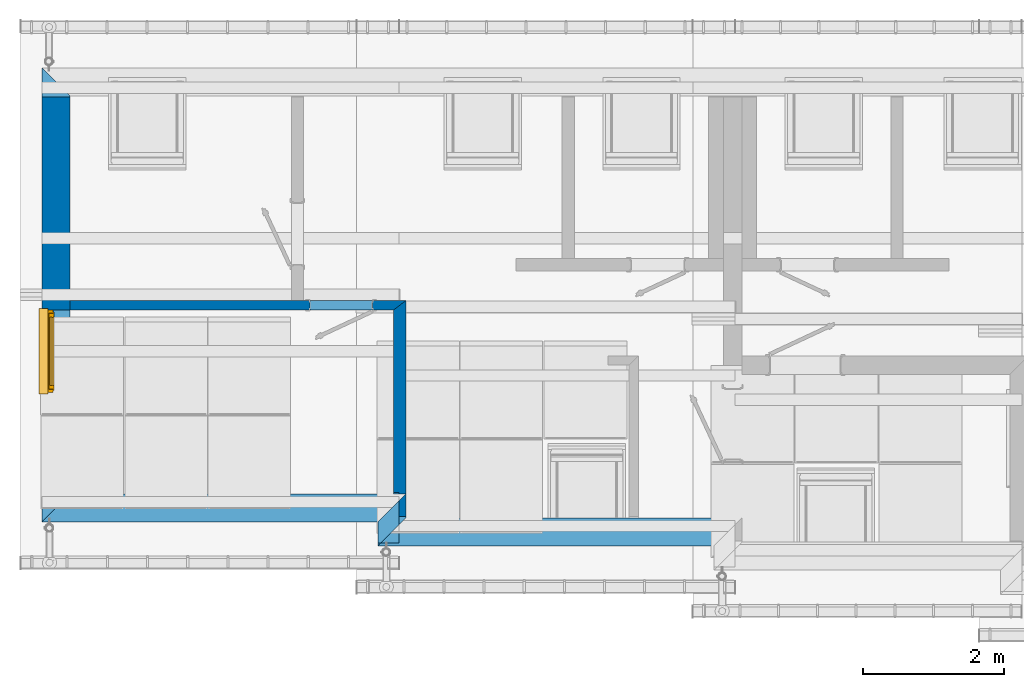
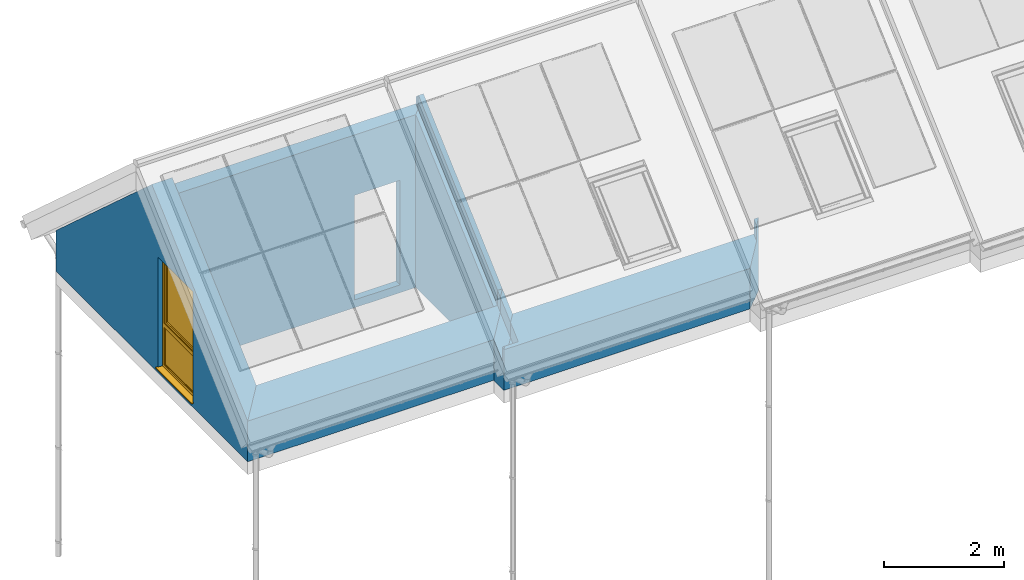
# One storey, part 6 of 43: 6 walls, 1 window, 2 openings.
"""IFC2X3 building model written with IfcOpenShell, lengths in millimetres."""

from ifc_helpers import new_model, si_unit, frame, origin_with_axes, place, context, project, spatial, faceted_brep, material, layer, layer_set, layer_usage, type_object, element, fill, save


model = new_model("IFC2X3")

# Units and contexts
model_context = context("Model", 3, world=origin_with_axes())
ifc_project = project(units=[si_unit("LENGTHUNIT", "METRE", prefix="MILLI")], contexts=[model_context])

# Site, building, storey
site_placement = place(None, origin_with_axes())
site = spatial("IfcSite", under=ifc_project, at=site_placement, Name="Site", CompositionType="ELEMENT")
building_placement = place(site_placement, origin_with_axes())
building = spatial("IfcBuilding", under=site, at=building_placement, Name="?", CompositionType="ELEMENT")
storey_placement = place(building_placement, frame((0.0, 0.0, 5938.0), z_axis=(0.0, 0.0, 1.0), x_axis=(1.0, 0.0, 0.0)))
storey = spatial("IfcBuildingStorey", under=building, at=storey_placement, Name="Dachgeschoß", CompositionType="ELEMENT", Elevation=5938.0)

# Walls
ifc_material_1 = material(Name="Material_AW")
ifc_layer_1 = layer(ifc_material_1, 395.0, ventilated=False)
ifc_layer_set_1 = layer_set([ifc_layer_1], Name="MaterialLayerSet_AW")
ifc_layer_usage_1 = layer_usage(ifc_layer_set_1, "AXIS2", "NEGATIVE", 197.5)
wall_1_placement = place(storey_placement, frame((9697.5, -6558.5, 0.0), z_axis=(0.0, 0.0, 1.0), x_axis=(-1.0, 0.0, 0.0)))
element("IfcWall", 1, at=wall_1_placement, inside=storey, material=ifc_layer_usage_1, Name="AW-27", context=model_context, shape_type="Brep", body=[
    faceted_brep([(4552.50024192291, -197.5, 0.0), (4552.50024192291, -197.5, 1185.2093980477), (-102.5, -197.5, 1185.20941535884), (-102.5, -197.5, 1493.14796522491), (-197.499999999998, -197.5, 1493.14796522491), (-197.5, -197.5, 0.0), (4947.50024192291, 197.5, 2.01948391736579e-28), (4947.50024192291, 197.5, 829.549722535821), (4906.50024192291, 156.5, 866.466296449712), (4906.50024192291, 156.5, 559.428262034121), (4647.5, -102.500241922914, 792.633059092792), (4647.5, -102.500241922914, 1099.67121290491), (4552.50024192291, -197.5, 1185.2093980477), (4552.50024192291, -197.5, 2.01948391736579e-28), (197.5, 197.5, 0.0), (197.500000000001, 197.5, 829.549740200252), (4947.50024192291, 197.5, 829.549722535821), (4947.50024192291, 197.5, 0.0), (-197.5, -197.5, 1.26217744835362e-29), (-197.499999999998, -197.5, 1493.14796522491), (-102.5, -102.500000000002, 1407.60939570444), (-102.5, -102.500000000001, 1099.67101274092), (197.500000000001, 197.5, 829.549740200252), (197.5, 197.5, -2.52435489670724e-29), (-197.5, -197.5, 0.0), (197.5, 197.5, 0.0), (4947.50024192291, 197.5, 0.0), (4552.50024192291, -197.5, 0.0), (-102.5, -102.500000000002, 1407.60939570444), (-197.499999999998, -197.5, 1493.14796522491), (-102.5, -197.5, 1493.14796522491), (4906.50024192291, 156.5, 866.466296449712), (4947.50024192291, 197.5, 829.549722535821), (197.5, 197.5, 829.549740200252), (-102.500000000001, -102.500000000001, 1099.67101274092), (-102.500000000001, -197.5, 1185.20941535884), (4552.50024192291, -197.5, 1185.2093980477), (4647.5, -102.500241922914, 1099.67121290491), (4647.5, 156.5, 866.466297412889), (4647.5, -102.500241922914, 792.633059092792), (4906.50024192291, 156.5, 559.428262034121), (4647.5, 156.5, 559.428262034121), (-102.5, -102.500000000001, 1099.67101274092), (-102.5, -102.500000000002, 1407.60939570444), (-102.5, -197.5, 1493.14796522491), (-102.5, -197.5, 1185.20941535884), (4647.5, 156.5, 559.428262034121), (4647.5, 156.5, 866.466297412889), (4647.5, -102.500241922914, 1099.67121290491), (4647.5, -102.500241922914, 792.633059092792), (4906.50024192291, 156.5, 559.428262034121), (4906.50024192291, 156.5, 866.466296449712), (4647.5, 156.5, 866.466297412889), (4647.5, 156.5, 559.428262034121)], [[[0, 1, 2, 3, 4, 5]], [[6, 7, 8, 9, 10, 11, 12, 13]], [[14, 15, 16, 17]], [[18, 19, 20, 21, 22, 23]], [[24, 25, 26, 27]], [[28, 29, 30]], [[31, 32, 33, 34, 35, 36, 37, 38]], [[39, 40, 41]], [[42, 43, 44, 45]], [[46, 47, 48, 49]], [[50, 51, 52, 53]]]),
])
wall_2_placement = place(storey_placement, frame((4947.5, -6558.5, 0.0), z_axis=(0.0, 0.0, 1.0), x_axis=(0.0, 1.0, 0.0)))
element("IfcWall", 2, at=wall_2_placement, inside=storey, material=ifc_layer_usage_1, Name="AW-28", context=model_context, shape_type="Brep", body=[
    faceted_brep([(538.50000682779, -197.5, 0.0), (538.50000682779, -197.5, 1492.24711746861), (197.5, -197.5, 1185.2092661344), (197.5, -197.5, 0.0), (143.50000682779, 197.5, 0.0), (143.50000682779, 197.5, 829.549519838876), (443.50000682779, -102.5, 1099.67088534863), (443.50000682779, -102.5, 1406.70878644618), (538.50000682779, -197.5, 1492.24711746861), (538.50000682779, -197.5, 0.0), (-197.5, 197.5, 0.0), (-197.5, 197.5, 829.549774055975), (-156.5, 197.5, 866.466275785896), (-156.5, 197.5, 559.428218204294), (143.50000682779, 197.5, 829.549519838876), (143.50000682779, 197.5, 0.0), (197.5, -197.5, 0.0), (197.5, -197.5, 1185.2092661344), (102.5, -102.5, 1099.67093511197), (102.5, -102.5, 792.63300666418), (-156.5, 156.5, 559.428227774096), (-156.5, 156.5, 866.466275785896), (-197.5, 197.5, 829.549774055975), (-197.5, 197.5, 0.0), (197.5, -197.5, 0.0), (-197.5, 197.5, 0.0), (143.50000682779, 197.5, 0.0), (538.50000682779, -197.5, 0.0), (-156.5, 197.5, 866.466275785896), (-197.5, 197.5, 829.549774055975), (-156.5, 156.5, 866.466275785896), (102.5, -102.5, 1099.67093511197), (197.5, -197.5, 1185.2092661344), (538.50000682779, -197.5, 1492.24711746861), (443.50000682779, -102.5, 1406.70878644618), (443.50000682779, -102.5, 1099.67088534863), (143.500006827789, 197.5, 829.549519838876), (-156.5, 197.5, 559.428218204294), (-156.5, 156.5, 559.428227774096), (102.5, -102.5, 792.63300666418), (102.5, -102.5, 792.63300666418), (102.5, -102.5, 1099.67093511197), (443.50000682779, -102.5, 1406.70878644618), (443.50000682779, -102.5, 1099.67088534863), (-156.5, 197.5, 559.428218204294), (-156.5, 197.5, 866.466275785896), (-156.5, 156.5, 866.466275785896), (-156.5, 156.5, 559.428227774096)], [[[0, 1, 2, 3]], [[4, 5, 6, 7, 8, 9]], [[10, 11, 12, 13, 14, 15]], [[16, 17, 18, 19, 20, 21, 22, 23]], [[24, 25, 26, 27]], [[28, 29, 30]], [[31, 32, 33, 34]], [[35, 36, 37, 38, 39]], [[40, 41, 42, 43]], [[44, 45, 46, 47]]]),
])
wall_3_placement = place(storey_placement, frame((4947.5, -6217.5, 0.0), z_axis=(0.0, 0.0, 1.0), x_axis=(-1.0, 0.0, 0.0)))
element("IfcWall", 3, at=wall_3_placement, inside=storey, material=ifc_layer_usage_1, Name="AW-29", context=model_context, shape_type="Brep", body=[
    faceted_brep([(4552.50024192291, -197.5, 0.0), (4552.50024192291, -197.5, 1185.20885290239), (-102.5, -197.5, 1185.20900773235), (-102.5, -197.5, 1492.24703898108), (-197.5, -197.5, 1492.24703898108), (-197.5, -197.5, 0.0), (4947.50024192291, 197.5, 0.0), (4947.50024192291, 197.5, 829.549165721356), (4552.50024192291, -197.5, 1185.20885290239), (4552.50024192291, -197.5, 0.0), (197.5, 197.5, 0.0), (197.5, 197.5, 829.549323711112), (4947.50024192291, 197.5, 829.549165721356), (4947.50024192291, 197.5, 0.0), (-197.5, -197.5, 0.0), (-197.5, -197.5, 1492.24703898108), (-102.5, -102.5, 1406.70895568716), (-102.5, -102.5, 1099.67060511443), (197.5, 197.5, 829.549323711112), (197.5, 197.5, 0.0), (-197.5, -197.5, 0.0), (197.5, 197.5, 0.0), (4947.50024192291, 197.5, 0.0), (4552.50024192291, -197.5, 0.0), (-102.5, -102.5, 1406.70895568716), (-197.5, -197.5, 1492.24703898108), (-102.5, -197.5, 1492.24703898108), (-102.5, -197.5, 1185.20900773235), (4552.50024192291, -197.5, 1185.20885290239), (4947.50024192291, 197.5, 829.549165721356), (197.5, 197.5, 829.549323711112), (-102.5, -102.5, 1099.67060511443), (-102.5, -102.5, 1099.67060511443), (-102.5, -102.5, 1406.70895568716), (-102.5, -197.5, 1492.24703898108), (-102.5, -197.5, 1185.20900773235)], [[[0, 1, 2, 3, 4, 5]], [[6, 7, 8, 9]], [[10, 11, 12, 13]], [[14, 15, 16, 17, 18, 19]], [[20, 21, 22, 23]], [[24, 25, 26]], [[27, 28, 29, 30, 31]], [[32, 33, 34, 35]]]),
])

# Wall, opening, window
wall_4_placement = place(storey_placement, frame((197.5, -6217.5, 0.0), z_axis=(0.0, 0.0, 1.0), x_axis=(0.0, 1.0, 0.0)))
wall_4 = element("IfcWall", 4, at=wall_4_placement, inside=storey, material=ifc_layer_usage_1, Name="AW-30", context=model_context, shape_type="Brep", body=[
    faceted_brep([(5822.50010878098, -197.5, 0.0), (5822.50010878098, -197.5, 1185.209782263), (3010.00062033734, -197.5, 3717.59624126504), (197.5, -197.5, 1185.20876310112), (197.5, -197.5, 0.0), (6217.49987570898, 197.5, 2.01948391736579e-28), (6217.49987570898, 197.5, 829.550307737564), (5822.50010878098, -197.5, 1185.209782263), (5822.50010878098, -197.499999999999, 2.01948391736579e-28), (-197.5, 197.5, 0.0), (-197.5, 197.5, 829.54907871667), (3010.00062033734, 197.5, 3717.59623092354), (6217.49987570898, 197.5, 829.550307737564), (6217.49987570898, 197.5, 0.0), (197.5, -197.5, 0.0), (197.5, -197.5, 1185.20876310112), (-197.5, 197.5, 829.54907871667), (-197.5, 197.5, 0.0), (197.5, -197.5, 0.0), (-197.5, 197.5, 0.0), (6217.49987570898, 197.5, 0.0), (5822.50010878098, -197.5, 0.0), (3010.00062033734, 197.5, 3717.59623092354), (-197.5, 197.5, 829.54907871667), (197.5, -197.5, 1185.20876310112), (3010.00062033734, -197.5, 3717.59624126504), (3010.00062033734, -197.5, 3717.59624126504), (5822.50010878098, -197.5, 1185.209782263), (6217.49987570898, 197.5, 829.550307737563), (3010.00062033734, 197.5, 3717.59623092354)], [[[0, 1, 2, 3, 4]], [[5, 6, 7, 8]], [[9, 10, 11, 12, 13]], [[14, 15, 16, 17]], [[18, 19, 20, 21]], [[22, 23, 24, 25]], [[26, 27, 28, 29]]]),
])
opening_1_placement = place(wall_4_placement, frame((1627.5, 0.0, 116.0), z_axis=(0.0, 0.0, 1.0), x_axis=(1.0, 0.0, 0.0)))
opening_1 = element("IfcOpeningElement", 5, at=opening_1_placement, cuts=wall_4, Name="AW-30|FE21", context=model_context, shape_type="Brep", body=[
    faceted_brep([(0.0, 207.5, 0.0), (0.0, 207.5, 2244.0), (1170.0, 207.5, 2244.0), (1170.0, 207.5, 0.0), (0.0, -207.5, 0.0), (0.0, -207.5, 2244.0), (0.0, 207.5, 2244.0), (0.0, 207.5, 0.0), (1170.0, -207.5, 0.0), (0.0, -207.5, 0.0), (0.0, 207.5, 0.0), (1170.0, 207.5, 0.0), (1170.0, -207.5, 2244.0), (1170.0, -207.5, 0.0), (1170.0, 207.5, 0.0), (1170.0, 207.5, 2244.0), (0.0, -207.5, 2244.0), (1170.0, -207.5, 2244.0), (1170.0, 207.5, 2244.0), (0.0, 207.5, 2244.0), (0.0, -207.5, 0.0), (1170.0, -207.5, 0.0), (1170.0, -207.5, 2244.0), (0.0, -207.5, 2244.0)], [[[0, 1, 2, 3]], [[4, 5, 6, 7]], [[8, 9, 10, 11]], [[12, 13, 14, 15]], [[16, 17, 18, 19]], [[20, 21, 22, 23]]]),
])
window_style = type_object("IfcWindowStyle", Name="FE21", ConstructionType="NOTDEFINED", OperationType="DOUBLE_PANEL_HORIZONTAL", ParameterTakesPrecedence=True, Sizeable=False)
window_placement = place(opening_1_placement, frame((1170.0, 77.5, 0.0), z_axis=(0.0, 0.0, 1.0), x_axis=(-1.0, 0.0, 0.0)))
window = element("IfcWindow", 6, at=window_placement, inside=storey, type_object=window_style, Name="FE21", OverallHeight=2244.0, OverallWidth=1170.0, context=model_context, shape_type="Brep", body=[
    faceted_brep([(0.0, -36.0, 0.0), (1170.0, -36.0, 0.0), (1155.0, -36.0, 15.0), (15.0, -36.0, 15.0), (15.0, 36.0, 15.0), (1155.0, 36.0, 15.0), (1170.0, 36.0, 0.0), (0.0, 36.0, 0.0), (0.0, 36.0, 0.0), (1170.0, 36.0, 0.0), (1170.0, -36.0, 0.0), (0.0, -36.0, 0.0), (1170.0, -36.0, 0.0), (1170.0, -36.0, 2244.0), (1155.0, -36.0, 2229.0), (1155.0, -36.0, 15.0), (1155.0, 36.0, 15.0), (1155.0, 36.0, 2229.0), (1170.0, 36.0, 2244.0), (1170.0, 36.0, 0.0), (1170.0, 36.0, 0.0), (1170.0, 36.0, 2244.0), (1170.0, -36.0, 2244.0), (1170.0, -36.0, 0.0), (1170.0, -36.0, 2244.0), (0.0, -36.0, 2244.0), (15.0, -36.0, 2229.0), (1155.0, -36.0, 2229.0), (1155.0, 36.0, 2229.0), (15.0, 36.0, 2229.0), (0.0, 36.0, 2244.0), (1170.0, 36.0, 2244.0), (1170.0, 36.0, 2244.0), (0.0, 36.0, 2244.0), (0.0, -36.0, 2244.0), (1170.0, -36.0, 2244.0), (0.0, -36.0, 2244.0), (0.0, -36.0, 0.0), (15.0, -36.0, 15.0), (15.0, -36.0, 2229.0), (15.0, 36.0, 2229.0), (15.0, 36.0, 15.0), (0.0, 36.0, 0.0), (0.0, 36.0, 2244.0), (0.0, 36.0, 2244.0), (0.0, 36.0, 0.0), (0.0, -36.0, 0.0), (0.0, -36.0, 2244.0), (1155.0, 36.0, 15.0), (15.0, 36.0, 15.0), (53.0, 36.0, 53.0), (1117.0, 36.0, 53.0), (1117.0, 36.0, 53.0), (53.0, 36.0, 53.0), (60.0, 24.9990234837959, 60.0009763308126), (1110.0, 24.9990234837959, 60.0009763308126), (1110.0, 25.0, 60.0), (60.0, 25.0, 60.0), (60.0, 12.0, 60.0), (1110.0, 12.0, 60.0), (1110.0, -12.0, 60.0), (60.0, -12.0, 60.0), (60.0, -25.0, 60.0), (1110.0, -25.0, 60.0), (1110.0, 12.0, 60.0), (60.0, 12.0, 60.0), (43.0, 12.0, 43.0), (1127.0, 12.0, 43.0), (1126.99951171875, 12.0, 43.0), (42.99951171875, 12.0, 43.0), (42.99951171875, -12.0, 43.0), (1126.99951171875, -12.0, 43.0), (1126.99951171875, -12.0, 43.0), (42.99951171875, -12.0, 43.0), (59.99951171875, -12.0, 60.0), (1109.99951171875, -12.0, 60.0), (1110.0, -25.0, 60.0), (60.0, -25.0, 60.0), (53.0, -36.0009765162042, 52.9990236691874), (1117.0, -36.0009765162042, 52.9990236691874), (1117.0, -36.0, 53.0), (53.0, -36.0, 53.0), (15.0, -36.0, 15.0), (1155.0, -36.0, 15.0), (1155.0, 36.0, 855.0), (1155.0, 36.0, 15.0), (1117.0, 36.0, 53.0), (1117.0, 36.0, 817.0), (1117.0, 36.0, 816.999999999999), (1117.0, 36.0, 52.9999999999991), (1109.99902366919, 24.9990234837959, 59.9999999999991), (1109.99902366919, 24.9990234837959, 809.999999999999), (1110.0, 25.0, 810.0), (1110.0, 25.0, 60.0), (1110.0, 12.0, 60.0), (1110.0, 12.0, 810.0), (1110.0, -12.0, 810.0), (1110.0, -12.0, 60.0), (1110.0, -25.0, 60.0), (1110.0, -25.0, 810.0), (1110.0, 12.0, 810.0), (1110.0, 12.0, 60.0), (1127.0, 12.0, 43.0), (1127.0, 12.0, 827.0), (1127.0, 12.0, 827.0), (1127.0, 12.0, 43.0), (1127.0, -12.0, 43.0), (1127.0, -12.0, 827.0), (1127.0, -12.0, 827.0), (1127.0, -12.0, 43.0), (1110.0, -12.0, 60.0), (1110.0, -12.0, 810.0), (1110.0, -25.0, 809.999999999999), (1110.0, -25.0, 59.999999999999), (1117.00097633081, -36.0009765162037, 52.999999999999), (1117.00097633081, -36.0009765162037, 816.999999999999), (1117.0, -36.0, 817.0), (1117.0, -36.0, 53.0), (1155.0, -36.0, 15.0), (1155.0, -36.0, 855.0), (15.0, 36.0, 855.0), (43.0, 36.0, 883.0), (1127.0, 36.0, 883.0), (1155.0, 36.0, 855.0), (1117.0, 36.0, 817.0), (53.0, 36.0, 817.0), (53.0, 36.0, 817.0), (1117.0, 36.0, 817.0), (1110.0, 24.9990234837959, 809.999023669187), (60.0, 24.9990234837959, 809.999023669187), (60.0, 25.0, 810.0), (1110.0, 25.0, 810.0), (1110.0, 12.0, 810.0), (60.0, 12.0, 810.0), (60.0, -12.0, 810.0), (1110.0, -12.0, 810.0), (1110.0, -25.0, 810.0), (60.0, -25.0, 810.0), (60.0, 12.0, 810.0), (1110.0, 12.0, 810.0), (1127.0, 12.0, 827.0), (43.0, 12.0, 827.0), (42.999755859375, 12.0, 827.0), (1127.0, 12.0, 827.0), (1127.0, -12.0, 827.0), (42.999755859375, -12.0, 827.0), (42.999755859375, -12.0, 827.0), (1127.0, -12.0, 827.0), (1110.0, -12.0, 810.0), (59.999755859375, -12.0, 810.0), (60.0, -25.0, 810.0), (1110.0, -25.0, 810.0), (1117.0, -36.0009765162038, 817.000976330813), (53.0, -36.0009765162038, 817.000976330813), (53.0, -36.0, 817.0), (1117.0, -36.0, 817.0), (1155.0, -36.0, 855.0), (1117.0, -36.0, 893.0), (53.0, -36.0, 893.0), (15.0, -36.0, 855.0), (1127.0, 36.0, 883.0), (43.0, 36.0, 883.0), (43.0, -21.0, 883.0), (1127.0, -21.0, 883.0), (1127.0, -21.0, 883.0), (43.0, -21.0, 883.0), (60.0, -21.0, 900.0), (1110.0, -21.0, 900.0), (1110.0, -21.0, 900.0), (60.0, -21.0, 900.0), (60.0, -25.0, 900.0), (1110.0, -25.0, 900.0), (1110.0, -25.0, 900.0), (60.0, -25.0, 900.0), (53.0, -36.0009768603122, 892.999511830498), (1117.0, -36.0009768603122, 892.999511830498), (15.0, 36.0, 15.0), (15.0, 36.0, 855.0), (53.0, 36.0, 817.0), (53.0, 36.0, 53.0), (53.0, 36.0, 53.0), (53.0, 36.0, 817.0), (60.0009763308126, 24.9990234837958, 810.0), (60.0009763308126, 24.9990234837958, 60.0), (60.0, 25.0, 60.0), (60.0, 25.0, 810.0), (60.0, 12.0, 810.0), (60.0, 12.0, 60.0), (60.0, -12.0, 60.0), (60.0, -12.0, 810.0), (60.0, -25.0, 810.0), (60.0, -25.0, 60.0), (60.0, 12.0, 60.0), (60.0, 12.0, 810.0), (43.0, 12.0, 827.0), (43.0, 12.0, 43.0), (43.0, 12.0, 43.0), (43.0, 12.0, 827.0), (43.0, -12.0, 827.0), (43.0, -12.0, 43.0), (43.0, -12.0, 43.0), (43.0, -12.0, 827.0), (60.0, -12.0, 810.0), (60.0, -12.0, 60.0), (60.0, -25.0, 59.9999999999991), (60.0, -25.0, 809.999999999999), (52.999023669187, -36.0009765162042, 816.999999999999), (52.999023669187, -36.0009765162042, 52.9999999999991), (53.0, -36.0, 53.0), (53.0, -36.0, 817.0), (15.0, -36.0, 855.0), (15.0, -36.0, 15.0), (1155.0, 36.0, 2229.0), (1155.0, 36.0, 855.0), (1127.0, 36.0, 883.0), (1127.0, 36.0, 2201.0), (1127.0, 36.0, 2201.0), (1127.0, 36.0, 883.0), (1127.0, -21.0, 883.0), (1127.0, -21.0, 2201.0), (1127.0, -21.0, 2201.0), (1127.0, -21.0, 883.0), (1110.0, -21.0, 900.0), (1110.0, -21.0, 2184.0), (1110.0, -21.0, 2184.0), (1110.0, -21.0, 900.0), (1110.0, -25.0, 900.0), (1110.0, -25.0, 2184.0), (1110.0, -25.0, 2184.0), (1110.0, -25.0, 900.0), (1117.00097633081, -36.0009765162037, 893.0), (1117.00097633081, -36.0009765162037, 2191.0), (1117.0, -36.0, 2191.0), (1117.0, -36.0, 893.0), (1155.0, -36.0, 855.0), (1155.0, -36.0, 2229.0), (15.0, 36.0, 2229.0), (1155.0, 36.0, 2229.0), (1127.0, 36.0, 2201.0), (43.0, 36.0, 2201.0), (42.999755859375, 36.0, 2201.0), (1127.0, 36.0, 2201.0), (1127.0, -21.0, 2201.0), (42.999755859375, -21.0, 2201.0), (42.999755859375, -21.0, 2201.0), (1127.0, -21.0, 2201.0), (1110.0, -21.0, 2184.0), (59.999755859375, -21.0, 2184.0), (59.999267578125, -21.0, 2184.0), (1109.9990234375, -21.0, 2184.0), (1109.9990234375, -25.0, 2184.0), (59.999267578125, -25.0, 2184.0), (59.999267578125, -25.0, 2184.0), (1109.9990234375, -25.0, 2184.0), (1116.9990234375, -36.0009766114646, 2191.00195349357), (52.999267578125, -36.0009766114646, 2191.00195349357), (53.0, -36.0, 2191.0), (1117.0, -36.0, 2191.0), (1155.0, -36.0, 2229.0), (15.0, -36.0, 2229.0), (15.0, 36.0, 855.0), (15.0, 36.0, 2229.0), (43.0, 36.0, 2201.0), (43.0, 36.0, 883.0), (43.0, 36.0, 883.0), (43.0, 36.0, 2201.0), (43.0, -21.0, 2201.0), (43.0, -21.0, 883.0), (43.0, -21.0, 883.0), (43.0, -21.0, 2201.0), (60.0, -21.0, 2184.0), (60.0, -21.0, 900.0), (60.0, -21.0, 900.0), (60.0, -21.0, 2184.0), (60.0, -25.0, 2184.0), (60.0, -25.0, 900.0), (60.0, -25.0, 899.999999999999), (60.0, -25.0, 2184.0), (52.999023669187, -36.0009765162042, 2191.0), (52.999023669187, -36.0009765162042, 892.999999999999), (53.0, -36.0, 893.0), (53.0, -36.0, 2191.0), (15.0, -36.0, 2229.0), (15.0, -36.0, 855.0), (1136.99951171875, 52.0, 873.0), (32.99951171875, 52.0, 873.0), (95.99951171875, 52.0, 936.0), (1073.99951171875, 52.0, 936.0), (1074.0, 52.0, 936.0), (96.0000000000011, 52.0, 936.0), (110.000000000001, 19.9980470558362, 950.00048823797), (1060.0, 19.9980470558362, 950.00048823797), (1059.99951171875, 20.0, 950.0), (109.99951171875, 20.0, 950.0), (102.99951171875, 20.0, 943.0), (1066.99951171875, 20.0, 943.0), (1067.0, 20.0, 943.0), (103.0, 20.0, 943.0), (103.0, -4.0, 943.0), (1067.0, -4.0, 943.0), (1067.0, -4.0, 943.0), (103.0, -4.0, 943.0), (110.0, -4.0, 950.0), (1060.0, -4.0, 950.0), (1059.99951171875, -3.99999999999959, 950.0), (109.99951171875, -3.99999999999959, 950.0), (101.99951171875, -21.0019531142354, 941.999511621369), (1067.99951171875, -21.0019531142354, 941.999511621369), (1068.0, -21.0, 942.0), (102.0, -21.0, 942.0), (51.0, -21.0, 891.0), (1119.0, -21.0, 891.0), (1119.0, -21.0, 891.0), (51.0, -21.0, 891.0), (51.0, 36.0, 891.0), (1119.0, 36.0, 891.0), (1119.0, 36.0, 891.0), (51.0, 36.0, 891.0), (33.0, 36.0, 873.0), (1137.0, 36.0, 873.0), (1136.99951171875, 36.0, 873.0), (32.99951171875, 36.0, 873.0), (32.99951171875, 52.0, 873.0), (1136.99951171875, 52.0, 873.0), (1137.0, 52.0, 2211.0), (1137.0, 52.0, 873.0), (1074.0, 52.0, 936.0), (1074.0, 52.0, 2148.0), (1074.0, 52.0, 2148.0), (1074.0, 52.0, 936.0), (1059.99951122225, 19.9990228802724, 950.0), (1059.99951122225, 19.9990228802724, 2134.0), (1060.0, 20.0, 2134.0), (1060.0, 20.0, 950.0), (1067.0, 20.0, 943.0), (1067.0, 20.0, 2141.0), (1067.0, 20.0, 2141.0), (1067.0, 20.0, 943.0), (1067.0, -4.0, 943.0), (1067.0, -4.0, 2141.0), (1067.0, -4.0, 2141.0), (1067.0, -4.0, 943.0), (1060.0, -4.0, 950.0), (1060.0, -4.0, 2134.0), (1060.0, -4.0, 2134.0), (1060.0, -4.0, 950.0), (1068.00048837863, -21.0019531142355, 942.0), (1068.00048837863, -21.0019531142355, 2142.0), (1068.0, -21.0, 2142.0), (1068.0, -21.0, 942.0), (1119.0, -21.0, 891.0), (1119.0, -21.0, 2193.0), (1119.0, -21.0, 2193.0), (1119.0, -21.0, 891.0), (1119.0, 36.0, 891.0), (1119.0, 36.0, 2193.0), (1119.0, 36.0, 2193.0), (1119.0, 36.0, 891.0), (1137.0, 36.0, 873.0), (1137.0, 36.0, 2211.0), (1137.0, 36.0, 2211.0), (1137.0, 36.0, 873.0), (1137.0, 52.0, 873.0), (1137.0, 52.0, 2211.0), (32.999755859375, 52.0, 2211.0), (1137.0, 52.0, 2211.0), (1074.0, 52.0, 2148.0), (95.999755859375, 52.0, 2148.0), (95.9997558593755, 52.0, 2148.0), (1074.0, 52.0, 2148.0), (1060.0, 19.9990228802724, 2133.99951122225), (109.999755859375, 19.9990228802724, 2133.99951122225), (109.999755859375, 20.0, 2134.0), (1060.0, 20.0, 2134.0), (1067.0, 20.0, 2141.0), (102.999755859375, 20.0, 2141.0), (102.9990234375, 20.0, 2141.0), (1066.9990234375, 20.0, 2141.0), (1066.9990234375, -4.0, 2141.0), (102.9990234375, -4.0, 2141.0), (102.9990234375, -4.0, 2141.0), (1066.9990234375, -4.0, 2141.0), (1059.9990234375, -4.0, 2134.0), (109.9990234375, -4.0, 2134.0), (109.999755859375, -4.0, 2134.0), (1060.0, -4.0, 2134.0), (1068.0, -21.0019530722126, 2142.00097673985), (101.999755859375, -21.0019530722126, 2142.00097673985), (101.999267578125, -21.0, 2142.0), (1067.9990234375, -21.0, 2142.0), (1118.9990234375, -21.0, 2193.0), (50.999267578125, -21.0, 2193.0), (50.9990234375, -21.0, 2193.0), (1118.9990234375, -21.0, 2193.0), (1118.9990234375, 36.0, 2193.0), (50.9990234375, 36.0, 2193.0), (50.9990234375, 36.0, 2193.0), (1118.9990234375, 36.0, 2193.0), (1136.9990234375, 36.0, 2211.0), (32.9990234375, 36.0, 2211.0), (32.999755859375, 36.0, 2211.0), (1137.0, 36.0, 2211.0), (1137.0, 52.0, 2211.0), (32.999755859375, 52.0, 2211.0), (33.0, 52.0, 873.0), (33.0, 52.0, 2211.0), (96.0, 52.0, 2148.0), (96.0, 52.0, 936.0), (96.0, 52.0000000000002, 936.000000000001), (96.0, 52.0000000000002, 2148.0), (110.000488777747, 19.9990228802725, 2134.0), (110.000488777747, 19.9990228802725, 950.000000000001), (110.0, 20.0, 950.0), (110.0, 20.0, 2134.0), (103.0, 20.0, 2141.0), (103.0, 20.0, 943.0), (103.0, 20.0, 943.0), (103.0, 20.0, 2141.0), (103.0, -4.0, 2141.0), (103.0, -4.0, 943.0), (103.0, -4.0, 943.0), (103.0, -4.0, 2141.0), (110.0, -4.0, 2134.0), (110.0, -4.0, 950.0), (110.0, -4.0, 950.000000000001), (110.0, -4.0, 2134.0), (101.999267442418, -21.0019530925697, 2142.0), (101.999267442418, -21.0019530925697, 942.000000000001), (102.0, -21.0, 942.00048828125), (102.0, -21.0, 2142.0), (51.0, -21.0, 2193.0), (51.0, -21.0, 891.00048828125), (51.0, -21.0, 891.0), (51.0, -21.0, 2193.0), (51.0, 36.0, 2193.0), (51.0, 36.0, 891.0), (51.0, 36.0, 891.0), (51.0, 36.0, 2193.0), (33.0, 36.0, 2211.0), (33.0, 36.0, 873.0), (33.0, 36.0, 873.0), (33.0, 36.0, 2211.0), (33.0, 52.0, 2211.0), (33.0, 52.0, 873.0), (60.0, 12.0, 60.0), (60.0, 12.0, 810.0), (1110.0, 12.0, 810.0), (1110.0, 12.0, 60.0), (60.0, -12.0, 60.0), (1110.0, -12.0, 60.0), (1110.0, -12.0, 810.0), (60.0, -12.0, 810.0), (110.0, 20.0, 950.0), (110.0, 20.0, 2134.0), (1060.0, 20.0, 2134.0), (1060.0, 20.0, 950.0), (110.0, -4.0, 950.0), (1060.0, -4.0, 950.0), (1060.0, -4.0, 2134.0), (110.0, -4.0, 2134.0), (-20.0, -36.0, 0.5), (-20.0, -160.0, 0.5), (1190.0, -160.0, 0.5), (1190.0, -36.0, 0.5), (-20.0, -36.0, -19.5), (-20.0, -36.0, 0.5), (1190.0, -36.0, 0.5), (1190.0, -36.0, -19.5), (-20.0, -160.0, -19.5), (-20.0, -36.0, -19.5), (1190.0, -36.0, -19.5), (1190.0, -160.0, -19.5), (-20.0, -160.0, 0.5), (-20.0, -160.0, -19.5), (1190.0, -160.0, -19.5), (1190.0, -160.0, 0.5), (-20.0, -160.0, -19.5), (-20.0, -160.0, 0.5), (-20.0, -36.0, 0.5), (-20.0, -36.0, -19.5), (1190.0, -160.0, 0.5), (1190.0, -160.0, -19.5), (1190.0, -36.0, -19.5), (1190.0, -36.0, 0.5)], [[[0, 1, 2, 3]], [[4, 5, 6, 7]], [[8, 9, 10, 11]], [[12, 13, 14, 15]], [[16, 17, 18, 19]], [[20, 21, 22, 23]], [[24, 25, 26, 27]], [[28, 29, 30, 31]], [[32, 33, 34, 35]], [[36, 37, 38, 39]], [[40, 41, 42, 43]], [[44, 45, 46, 47]], [[48, 49, 50, 51]], [[52, 53, 54, 55]], [[56, 57, 58, 59]], [[60, 61, 62, 63]], [[64, 65, 66, 67]], [[68, 69, 70, 71]], [[72, 73, 74, 75]], [[76, 77, 78, 79]], [[80, 81, 82, 83]], [[84, 85, 86, 87]], [[88, 89, 90, 91]], [[92, 93, 94, 95]], [[96, 97, 98, 99]], [[100, 101, 102, 103]], [[104, 105, 106, 107]], [[108, 109, 110, 111]], [[112, 113, 114, 115]], [[116, 117, 118, 119]], [[120, 121, 122, 123, 124, 125]], [[126, 127, 128, 129]], [[130, 131, 132, 133]], [[134, 135, 136, 137]], [[138, 139, 140, 141]], [[142, 143, 144, 145]], [[146, 147, 148, 149]], [[150, 151, 152, 153]], [[154, 155, 156, 157, 158, 159]], [[160, 161, 162, 163]], [[164, 165, 166, 167]], [[168, 169, 170, 171]], [[172, 173, 174, 175]], [[176, 177, 178, 179]], [[180, 181, 182, 183]], [[184, 185, 186, 187]], [[188, 189, 190, 191]], [[192, 193, 194, 195]], [[196, 197, 198, 199]], [[200, 201, 202, 203]], [[204, 205, 206, 207]], [[208, 209, 210, 211]], [[212, 213, 214, 215]], [[216, 217, 218, 219]], [[220, 221, 222, 223]], [[224, 225, 226, 227]], [[228, 229, 230, 231]], [[232, 233, 234, 235]], [[236, 237, 238, 239]], [[240, 241, 242, 243]], [[244, 245, 246, 247]], [[248, 249, 250, 251]], [[252, 253, 254, 255]], [[256, 257, 258, 259]], [[260, 261, 262, 263]], [[264, 265, 266, 267]], [[268, 269, 270, 271]], [[272, 273, 274, 275]], [[276, 277, 278, 279]], [[280, 281, 282, 283]], [[284, 285, 286, 287]], [[288, 289, 290, 291]], [[292, 293, 294, 295]], [[296, 297, 298, 299]], [[300, 301, 302, 303]], [[304, 305, 306, 307]], [[308, 309, 310, 311]], [[312, 313, 314, 315]], [[316, 317, 318, 319]], [[320, 321, 322, 323]], [[324, 325, 326, 327]], [[328, 329, 330, 331]], [[332, 333, 334, 335]], [[336, 337, 338, 339]], [[340, 341, 342, 343]], [[344, 345, 346, 347]], [[348, 349, 350, 351]], [[352, 353, 354, 355]], [[356, 357, 358, 359]], [[360, 361, 362, 363]], [[364, 365, 366, 367]], [[368, 369, 370, 371]], [[372, 373, 374, 375]], [[376, 377, 378, 379]], [[380, 381, 382, 383]], [[384, 385, 386, 387]], [[388, 389, 390, 391]], [[392, 393, 394, 395]], [[396, 397, 398, 399]], [[400, 401, 402, 403]], [[404, 405, 406, 407]], [[408, 409, 410, 411]], [[412, 413, 414, 415]], [[416, 417, 418, 419]], [[420, 421, 422, 423]], [[424, 425, 426, 427]], [[428, 429, 430, 431]], [[432, 433, 434, 435]], [[436, 437, 438, 439]], [[440, 441, 442, 443]], [[444, 445, 446, 447]], [[448, 449, 450, 451]], [[452, 453, 454, 455]], [[456, 457, 458, 459]], [[460, 461, 462, 463]], [[464, 465, 466, 467]], [[468, 469, 470, 471]], [[472, 473, 474, 475]], [[476, 477, 478, 479]], [[480, 481, 482, 483]]]),
])
fill(opening_1, window)

# Wall, opening
ifc_material_2 = material(Name="Material_IW")
ifc_layer_2 = layer(ifc_material_2, 132.0, ventilated=False)
ifc_layer_set_2 = layer_set([ifc_layer_2], Name="MaterialLayerSet_IW")
ifc_layer_usage_2 = layer_usage(ifc_layer_set_2, "AXIS2", "NEGATIVE", 66.0)
wall_5_placement = place(storey_placement, frame((395.0, -3354.0, 0.0), z_axis=(0.0, 0.0, 1.0), x_axis=(1.0, 0.0, 0.0)))
wall_5 = element("IfcWall", 7, at=wall_5_placement, inside=storey, material=ifc_layer_usage_2, Name="IW-39", context=model_context, shape_type="Brep", body=[
    faceted_brep([(4577.9998000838, -66.0, 0.0), (4577.99968991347, -66.0, 3526.25978378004), (0.0, -66.0, 3526.25976273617), (0.0, -66.0, 0.0), (4749.99991169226, 65.9999999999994, 0.0), (4749.99979327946, 65.9999999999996, 3790.07927913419), (4655.0, -6.90676921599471, 3855.72488757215), (4655.0, -6.90677583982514, 3579.46764139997), (4577.99968991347, -66.0000000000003, 3526.25978378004), (4577.9998000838, -66.0000000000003, 0.0), (0.0, 66.0, 0.0), (0.0, 66.0, 3645.11327359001), (4655.0, 66.0, 3645.11329498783), (4655.0, 66.0, 3790.07927913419), (4749.99979327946, 66.0, 3790.07927913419), (4749.99991169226, 66.0, 0.0), (0.0, -66.0, 0.0), (0.0, -66.0, 3526.25976273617), (0.0, 66.0, 3645.11327359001), (0.0, 66.0, 0.0), (0.0, -66.0, 0.0), (0.0, 66.0, 0.0), (4749.99991169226, 66.0, 0.0), (4577.9998000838, -66.0, 0.0), (4655.0, -6.90676921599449, 3855.72488757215), (4749.99979327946, 66.0000000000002, 3790.07927913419), (4655.0, 66.0000000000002, 3790.07927913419), (4655.0, 66.0, 3645.11329498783), (-9.09494701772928e-13, 65.9999999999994, 3645.11327359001), (-9.09494701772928e-13, -66.0000000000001, 3526.25976273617), (4577.99968991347, -66.0000000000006, 3526.25978378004), (4655.0, -6.90677583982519, 3579.46764139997), (4655.0, -6.90677583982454, 3579.46764139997), (4655.0, -6.90676921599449, 3855.72488757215), (4655.0, 66.0, 3790.07927913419), (4655.0, 66.0, 3645.11329498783)], [[[0, 1, 2, 3]], [[4, 5, 6, 7, 8, 9]], [[10, 11, 12, 13, 14, 15]], [[16, 17, 18, 19]], [[20, 21, 22, 23]], [[24, 25, 26]], [[27, 28, 29, 30, 31]], [[32, 33, 34, 35]]]),
])
opening_2_placement = place(wall_5_placement, frame((3392.0, 0.0, 160.0), z_axis=(0.0, 0.0, 1.0), x_axis=(1.0, 0.0, 0.0)))
element("IfcOpeningElement", 8, at=opening_2_placement, cuts=wall_5, Name="IW-39|IT16", context=model_context, shape_type="Brep", body=[
    faceted_brep([(0.0, 76.0, 0.0), (0.0, 76.0, 2135.0), (885.0, 76.0, 2135.0), (885.0, 76.0, 0.0), (0.0, -76.0, 0.0), (0.0, -76.0, 2135.0), (0.0, 76.0, 2135.0), (0.0, 76.0, 0.0), (885.0, -76.0, 0.0), (0.0, -76.0, 0.0), (0.0, 76.0, 0.0), (885.0, 76.0, 0.0), (885.0, -76.0, 2135.0), (885.0, -76.0, 0.0), (885.0, 76.0, 0.0), (885.0, 76.0, 2135.0), (0.0, -76.0, 2135.0), (885.0, -76.0, 2135.0), (885.0, 76.0, 2135.0), (0.0, 76.0, 2135.0), (0.0, -76.0, 0.0), (885.0, -76.0, 0.0), (885.0, -76.0, 2135.0), (0.0, -76.0, 2135.0)], [[[0, 1, 2, 3]], [[4, 5, 6, 7]], [[8, 9, 10, 11]], [[12, 13, 14, 15]], [[16, 17, 18, 19]], [[20, 21, 22, 23]]]),
])

# Wall
ifc_layer_3 = layer(ifc_material_2, 172.0, ventilated=False)
ifc_layer_set_3 = layer_set([ifc_layer_3], Name="MaterialLayerSet_IW")
ifc_layer_usage_3 = layer_usage(ifc_layer_set_3, "AXIS2", "NEGATIVE", 86.0)
wall_6_placement = place(storey_placement, frame((5059.0, -6020.0, 0.0), z_axis=(0.0, 0.0, 1.0), x_axis=(0.0, 1.0, 0.0)))
element("IfcWall", 9, at=wall_6_placement, inside=storey, material=ifc_layer_usage_3, Name="IW-48", context=model_context, shape_type="Brep", body=[
    faceted_brep([(2731.99993418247, -86.0, 0.0), (2732.0000250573, -86.0, 3790.07932962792), (2642.00012564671, -86.0, 3871.11516634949), (0.0, -86.0, 1492.24705620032), (0.0, -86.0, 0.0), (2600.00001983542, 86.0000000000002, 0.0), (2600.00010438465, 86.0000000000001, 3526.26028886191), (2659.09309057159, 9.00000000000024, 3579.46757597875), (2659.09309719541, 9.0, 3855.72487451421), (2732.0000250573, -85.9999999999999, 3790.07932962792), (2731.99993418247, -85.9999999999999, -6.7762635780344e-21), (0.0, 86.0, 0.0), (0.0, 86.0, 1185.20917585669), (2600.00010438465, 86.0, 3526.26028886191), (2600.00001983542, 86.0, 0.0), (0.0, -86.0, 0.0), (0.0, -86.0, 1492.24705620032), (0.0, 9.0, 1492.24705620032), (0.0, 9.0, 1185.20888776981), (0.0, 86.0, 1185.20917585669), (0.0, 86.0, 0.0), (0.0, -86.0, 0.0), (0.0, 86.0, 0.0), (2600.00001983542, 86.0, 0.0), (2731.99993418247, -86.0, 0.0), (2642.00012564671, -86.0, 3871.11516634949), (2732.0000250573, -86.0, 3790.07932962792), (2659.09309719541, 9.0, 3855.72487451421), (2642.00024000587, 9.0, 3871.11526931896), (-2.08408654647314e-30, 9.0, 1492.24705620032), (-1.11457460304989e-13, -86.0, 1492.24705620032), (2642.00012564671, -86.0, 3871.11516634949), (2642.00024000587, 9.0, 3871.11526931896), (2659.09309057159, 9.0, 3579.46757597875), (2600.00010438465, 86.0, 3526.26028886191), (0.0, 86.0, 1185.20917585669), (0.0, 9.0, 1185.20888776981), (2641.99975347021, 9.0, 3564.07666280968), (0.0, 9.0, 1185.20888776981), (0.0, 9.0, 1492.24705620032), (2642.00024000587, 9.0, 3871.11526931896), (2659.09309719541, 9.0, 3855.72487451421), (2659.09309057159, 9.0, 3579.46757597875), (2641.99975347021, 9.0, 3564.07666280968)], [[[0, 1, 2, 3, 4]], [[5, 6, 7, 8, 9, 10]], [[11, 12, 13, 14]], [[15, 16, 17, 18, 19, 20]], [[21, 22, 23, 24]], [[25, 26, 27, 28]], [[29, 30, 31, 32]], [[33, 34, 35, 36, 37]], [[38, 39, 40, 41, 42, 43]]]),
])

save(model, "model.ifc")
